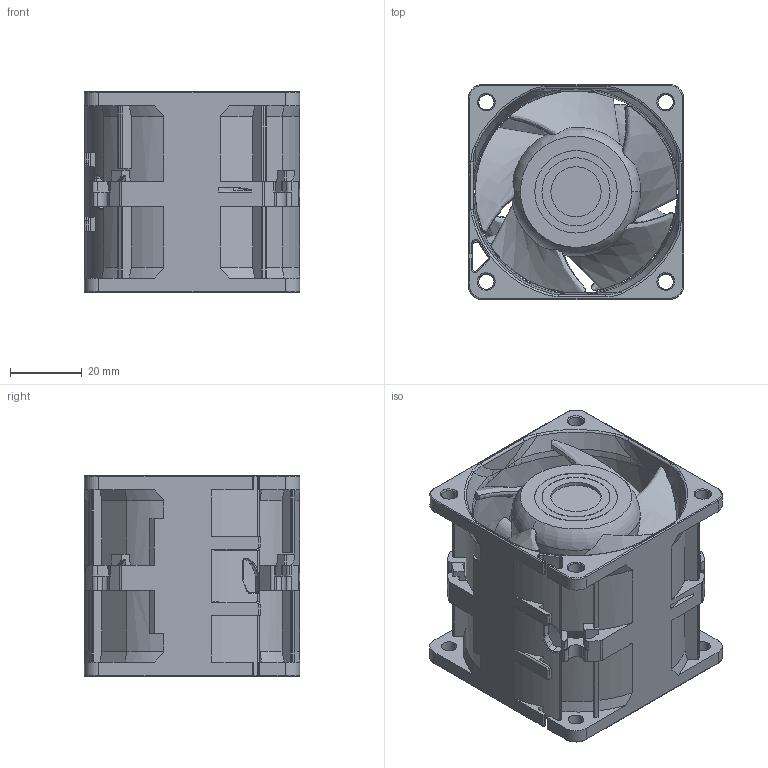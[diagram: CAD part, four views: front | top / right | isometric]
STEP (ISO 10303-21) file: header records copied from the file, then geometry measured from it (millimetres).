
FILE_DESCRIPTION (( 'STEP AP203' ), '1' );
FILE_NAME ('60x56CRA.STEP', '2017-01-31T10:03:46', ( '' ), ( '' ), 'SwSTEP 2.0', 'SolidWorks 2016', '' );
FILE_SCHEMA (( 'CONFIG_CONTROL_DESIGN' ));
Length unit declared in the file: millimetre
Products named in the file (1): 60x56CRA
Bounding box: 60 x 60 x 56 mm (x, y, z)
Volume: 91617 mm3; surface area: 41963.9 mm2
Topology: 1 solids, 1 shells, 608 faces, 1726 edges, 1102 vertices
Faces by surface type: cylinder 225, bspline 178, plane 160, cone 42, torus 3
Entity records: 36644 total; most frequent: CARTESIAN_POINT 22894, ORIENTED_EDGE 3392, DIRECTION 2103, EDGE_CURVE 1696, VERTEX_POINT 1102, AXIS2_PLACEMENT_3D 770, B_SPLINE_CURVE_WITH_KNOTS 754, EDGE_LOOP 642
